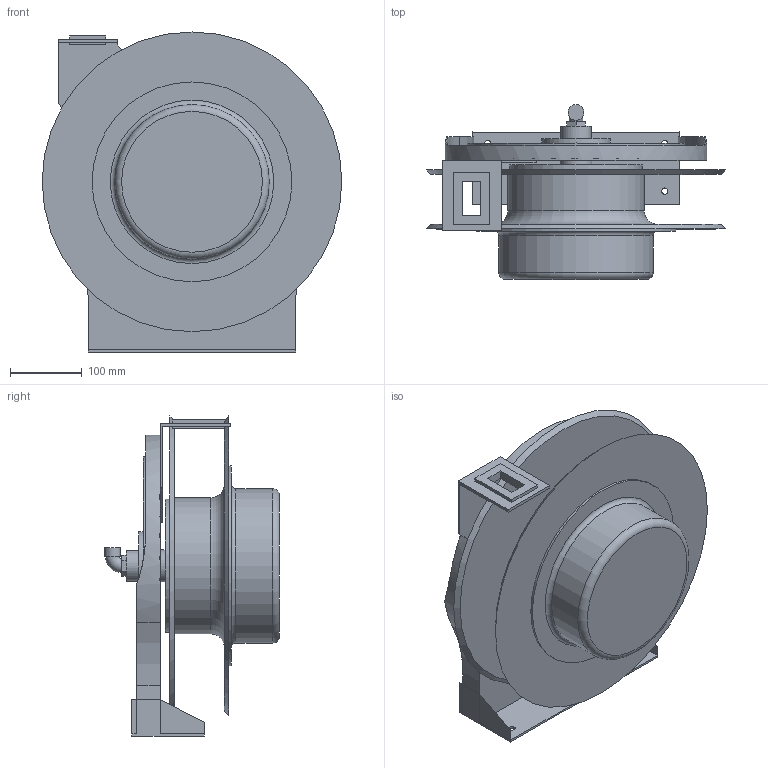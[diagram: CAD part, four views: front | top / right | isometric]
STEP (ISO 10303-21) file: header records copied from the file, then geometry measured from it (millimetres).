
FILE_DESCRIPTION( ( 'Unknown' ), '1' );
FILE_NAME( 'J:/NPD/RE 12893 3D WEB MODELS/L5000 SERIES/L 5005 .stp', 'Unknown', ( 'Unknown' ), ( 'Unknown' ), 'PSStep 10.1', 'Unknown', ' ' );
FILE_SCHEMA( ( 'AUTOMOTIVE_DESIGN { 1 0 10303 214 1 1 1 1 }' ) );
Length unit declared in the file: millimetre
Products named in the file (1): 1
Bounding box: 419.1 x 244.58 x 447.54 mm (x, y, z)
Volume: 6849021 mm3; surface area: 1139825.5 mm2
Topology: 1 solids, 2 shells, 103 faces, 243 edges, 161 vertices
Faces by surface type: plane 71, cylinder 24, torus 6, cone 2
Full cylindrical faces by diameter (mm): 8.712 x4, 22.225 x1, 25.4 x1, 42.85 x1, 44.704 x1, 69.266 x1, 95.25 x1, 177.8 x1, 185.826 x1, 190.5 x1, 215.9 x1, 279.4 x1, 304.8 x1
Entity records: 3646 total; most frequent: CARTESIAN_POINT 516, DIRECTION 474, ORIENTED_EDGE 418, EDGE_CURVE 209, AXIS2_PLACEMENT_3D 165, EDGE_LOOP 154, VERTEX_POINT 151, LINE 144
